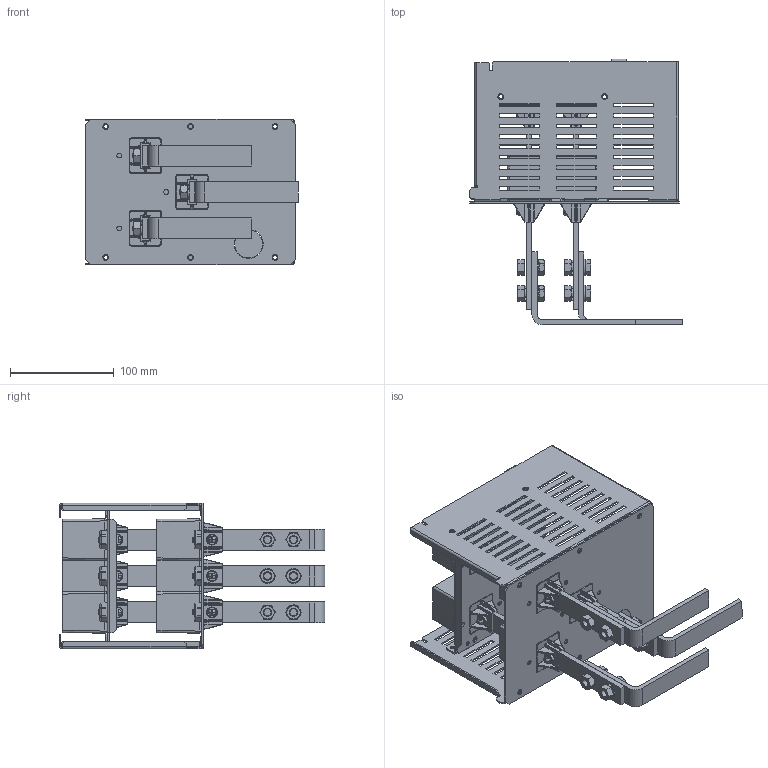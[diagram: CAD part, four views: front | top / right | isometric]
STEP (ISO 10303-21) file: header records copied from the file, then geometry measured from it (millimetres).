
FILE_DESCRIPTION(('CAx-IF Rec.Pracs.---Model Styling and Organization---1.2---2011-12-15','CAx-IF Rec.Pracs.---Geometric and Assembly Validation Properties---4.1---2014-06-16','CAx-IF Rec.Pracs.---PMI Polyline Presentation---2.0---2013-05-24'),'2;1');
FILE_NAME('R5M2W3MRT3B.stp','2021-05-05T13:04:55+03:00',(''),(''),'STEP Interface 4.4 by CT CoreTechnologie','3D_Evolution4.4 by CT CoreTechnologie','');
FILE_SCHEMA(('AUTOMOTIVE_DESIGN { 1 0 10303 214 1 1 1 1 }'));
Length unit declared in the file: millimetre
Products named in the file (15): R5M2W3MRT3B; 8 DIN127 ÑÌ130800INOX; V02.ÒÏÀ.08.0041.00.00.0_¤«ï ¨­áâàãªæ¨¨ ¯ «¥æ; RB.1584.00.00.1_-00; V02.ÒÏÀ.08.0041.00.00.0_«ï ¨­áâàãªæ¨¨ ¡¥§ ¯ «ìæ; RB.1585.00.00.0_-00; Ì4-GOST R 50273-92 (DIN 985)_thread; M8x25-DIN 933_thread; A.8.01-GOST 11371-78 (DIN 125A) (CM240800)_ ©¡  A.8.016  11371-78; Ì8  DIN934 ÑÌ110800INOX; RB.1242.00.00.0_-00; RB.1217.00.00.0_-00; RB.1465.00.00.0_-00; RB.1466.00.00.1_-00; RB.1465.00.00.0_-01
Assembly tree (57 placements, depth 2):
  R5M2W3MRT3B
    8 DIN127 ÑÌ130800INOX  x3
    V02.ÒÏÀ.08.0041.00.00.0_¤«ï ¨­áâàãªæ¨¨ ¯ «¥æ  x6
    RB.1584.00.00.1_-00  x3
    V02.ÒÏÀ.08.0041.00.00.0_«ï ¨­áâàãªæ¨¨ ¡¥§ ¯ «ìæ  x6
    RB.1585.00.00.0_-00  x3
    Ì4-GOST R 50273-92 (DIN 985)_thread  x12
    M8x25-DIN 933_thread  x6
    A.8.01-GOST 11371-78 (DIN 125A) (CM240800)_ ©¡  A.8.016  11371-78  x6
    Ì8  DIN934 ÑÌ110800INOX  x6
    RB.1242.00.00.0_-00
    RB.1217.00.00.0_-00  x2
    RB.1465.00.00.0_-00
    RB.1466.00.00.1_-00
    RB.1465.00.00.0_-01
Bounding box: 205 x 255.5 x 140 mm (x, y, z)
Surface area: 390998.3 mm2 (no closed solid volume)
Topology: 0 solids, 71 shells, 3038 faces, 7723 edges, 4743 vertices
Faces by surface type: plane 1248, cylinder 916, bspline 874
Entity records: 41510 total; most frequent: CARTESIAN_POINT 14890, ORIENTED_EDGE 5346, DIRECTION 5041, EDGE_CURVE 2673, VECTOR 1885, LINE 1885, VERTEX_POINT 1723, AXIS2_PLACEMENT_3D 1578
